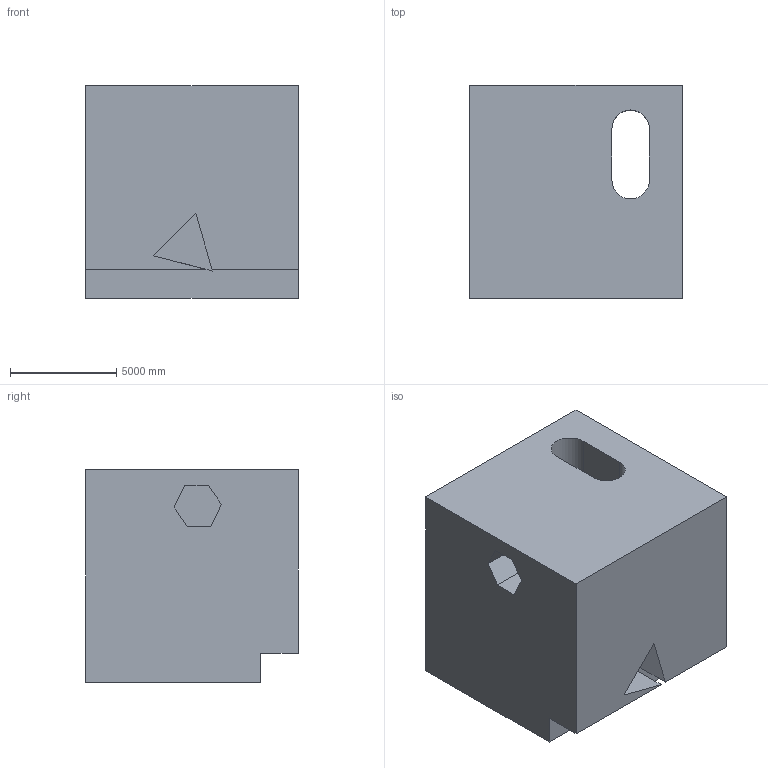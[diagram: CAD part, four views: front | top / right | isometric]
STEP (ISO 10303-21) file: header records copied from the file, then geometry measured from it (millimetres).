
FILE_DESCRIPTION (( 'STEP AP203' ), '1' );
FILE_NAME ('1463.STEP', '2022-08-18T14:37:41', ( 'user' ), ( '' ), 'SwSTEP 2.0', 'SolidWorks 2021', '' );
FILE_SCHEMA (( 'CONFIG_CONTROL_DESIGN' ));
Length unit declared in the file: centimetre
Products named in the file (1): 1463
Bounding box: 10000 x 10000 x 10000 mm (x, y, z)
Volume: 869779614758.4 mm3; surface area: 796016798.1 mm2
Topology: 1 solids, 1 shells, 28 faces, 72 edges, 48 vertices
Faces by surface type: plane 26, cylinder 2
Entity records: 921 total; most frequent: CARTESIAN_POINT 149, ORIENTED_EDGE 144, DIRECTION 134, EDGE_CURVE 72, VECTOR 68, LINE 68, VERTEX_POINT 48, AXIS2_PLACEMENT_3D 33
